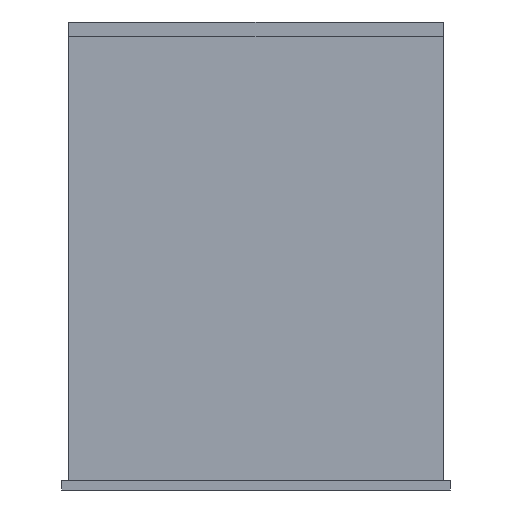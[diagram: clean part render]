
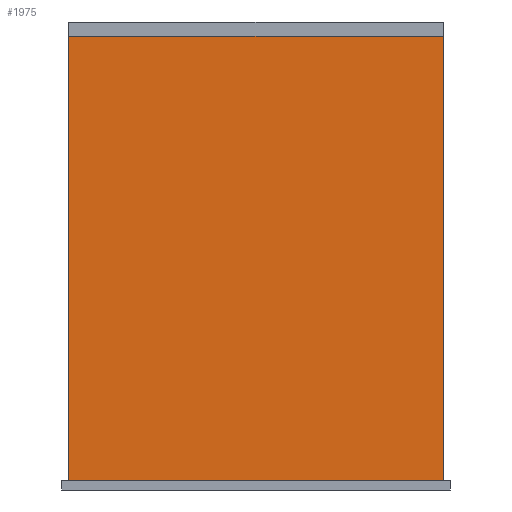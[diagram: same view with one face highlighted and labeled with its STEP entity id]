
A CAD part, left-side view. The second image highlights one B-rep face of the part: STEP entity #1975.
In plain terms, the highlighted planar face has unit normal (-1, 0, 0).
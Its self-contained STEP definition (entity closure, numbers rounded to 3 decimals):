
#74 = CARTESIAN_POINT ( 'NONE',  ( -40., 0., 0. ) ) ;
#124 = EDGE_CURVE ( 'NONE', #1940, #983, #1262, .T. ) ;
#134 = DIRECTION ( 'NONE',  ( 0., -1., 0. ) ) ;
#194 = FACE_OUTER_BOUND ( 'NONE', #365, .T. ) ;
#228 = CARTESIAN_POINT ( 'NONE',  ( -40., 40., 95. ) ) ;
#280 = EDGE_CURVE ( 'NONE', #983, #1622, #575, .T. ) ;
#339 = DIRECTION ( 'NONE',  ( 0., 1., 0. ) ) ;
#365 = EDGE_LOOP ( 'NONE', ( #745, #1906, #401, #803 ) ) ;
#401 = ORIENTED_EDGE ( 'NONE', *, *, #124, .F. ) ;
#416 = DIRECTION ( 'NONE',  ( 0., 0., -1. ) ) ;
#427 = VECTOR ( 'NONE', #134, 1000. ) ;
#575 = LINE ( 'NONE', #1877, #1371 ) ;
#745 = ORIENTED_EDGE ( 'NONE', *, *, #917, .T. ) ;
#803 = ORIENTED_EDGE ( 'NONE', *, *, #881, .T. ) ;
#855 = PLANE ( 'NONE',  #1220 ) ;
#881 = EDGE_CURVE ( 'NONE', #1940, #1241, #1319, .T. ) ;
#917 = EDGE_CURVE ( 'NONE', #1241, #1622, #1202, .T. ) ;
#978 = CARTESIAN_POINT ( 'NONE',  ( -40., 0., 95. ) ) ;
#983 = VERTEX_POINT ( 'NONE', #1225 ) ;
#1001 = CARTESIAN_POINT ( 'NONE',  ( -40., 40., 95. ) ) ;
#1126 = VECTOR ( 'NONE', #1699, 1000. ) ;
#1202 = LINE ( 'NONE', #74, #1126 ) ;
#1220 = AXIS2_PLACEMENT_3D ( 'NONE', #1305, #1962, #339 ) ;
#1225 = CARTESIAN_POINT ( 'NONE',  ( -40., -40., 95. ) ) ;
#1241 = VERTEX_POINT ( 'NONE', #1651 ) ;
#1262 = LINE ( 'NONE', #978, #427 ) ;
#1287 = CARTESIAN_POINT ( 'NONE',  ( -40., -40., 0. ) ) ;
#1305 = CARTESIAN_POINT ( 'NONE',  ( -40., 0., 95. ) ) ;
#1319 = LINE ( 'NONE', #228, #1375 ) ;
#1371 = VECTOR ( 'NONE', #416, 1000. ) ;
#1375 = VECTOR ( 'NONE', #1979, 1000. ) ;
#1622 = VERTEX_POINT ( 'NONE', #1287 ) ;
#1651 = CARTESIAN_POINT ( 'NONE',  ( -40., 40., 0. ) ) ;
#1699 = DIRECTION ( 'NONE',  ( 0., -1., 0. ) ) ;
#1877 = CARTESIAN_POINT ( 'NONE',  ( -40., -40., 95. ) ) ;
#1906 = ORIENTED_EDGE ( 'NONE', *, *, #280, .F. ) ;
#1940 = VERTEX_POINT ( 'NONE', #1001 ) ;
#1962 = DIRECTION ( 'NONE',  ( 1., 0., 0. ) ) ;
#1975 = ADVANCED_FACE ( 'NONE', ( #194 ), #855, .F. ) ;
#1979 = DIRECTION ( 'NONE',  ( 0., 0., -1. ) ) ;
